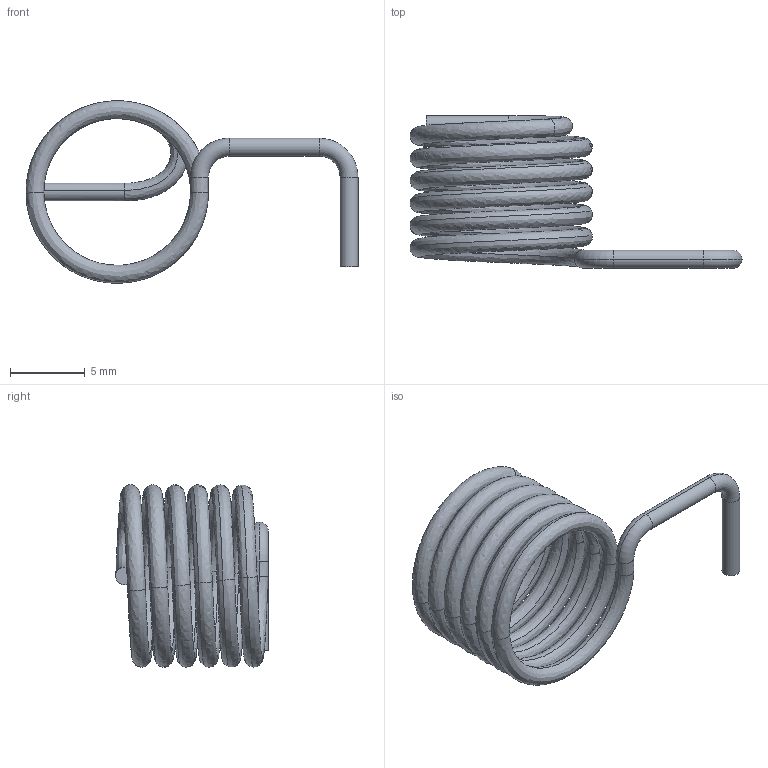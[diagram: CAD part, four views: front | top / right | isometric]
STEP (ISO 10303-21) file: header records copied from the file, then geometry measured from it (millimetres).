
FILE_DESCRIPTION(('CATIA V5 STEP Exchange'),'2;1');
FILE_NAME('D:\交接\张长江\21-Benz H6\光华荣昌转盘数据\H6 转盘\转盘用整椅数据 A9609109920\sample\H6 转盘夏季测试样件方案_20240617\样件数据\弹簧和钢丝\SHT0017294-105 主驾转盘解锁杆扭簧.stp','2024-06-19T07:51:34+00:00',('none'),('none'),'CATIA Version 5 Release 20 GA (IN-10)','CATIA V5 STEP AP203 Edition 2','none');
FILE_SCHEMA(('AP203_CONFIGURATION_CONTROLLED_3D_DESIGN_OF_MECHANICAL_PARTS_AND_ASSEMBLIES_MIM_LF { 1 0 10303 403 2 1 2}'));
Length unit declared in the file: millimetre
Products named in the file (1): SHT0017294-10
Bounding box: 22.2 x 10.2 x 12.2 mm (x, y, z)
Volume: 265 mm3; surface area: 885.6 mm2
Topology: 1 solids, 1 shells, 40 faces, 78 edges, 40 vertices
Faces by surface type: bspline 28, cylinder 6, torus 4, plane 2
Entity records: 3219 total; most frequent: CARTESIAN_POINT 2696, ORIENTED_EDGE 156, EDGE_CURVE 78, ADVANCED_FACE 40, VERTEX_POINT 40, EDGE_LOOP 40, FACE_OUTER_BOUND 40, DIRECTION 34
